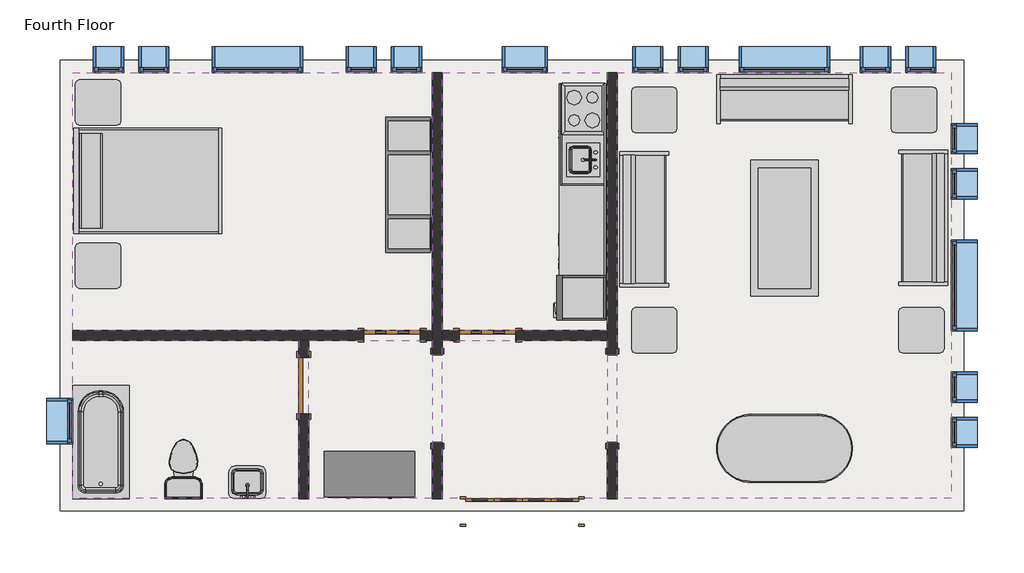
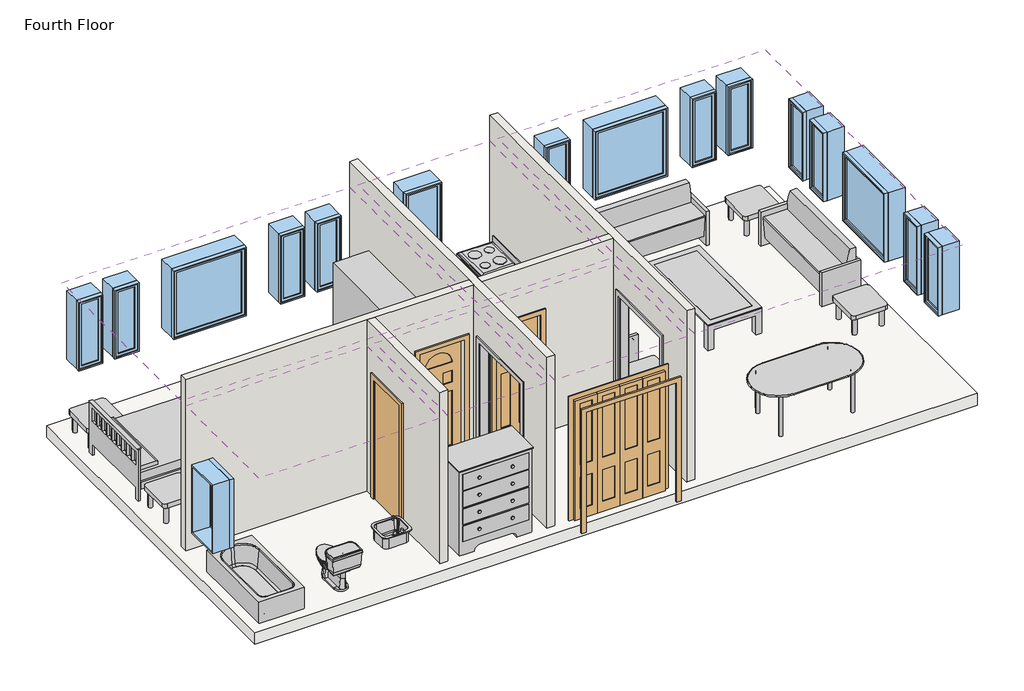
# One storey, incomplete: 17 windows, 15 furniture elements, 6 coverings, 6 proxies, 4 doors, 4 flow terminals, 4 walls, 1 slab.
"""IFC4 building model written with IfcOpenShell, lengths in millimetres."""

from ifc_helpers import new_model, si_unit, frame, origin, place, context, project, spatial, polyline, outline, extrude, faceted_brep, transform, mapped, element, save
from components import m_cook_top_4_unit2_0615_x_500mm_249f3515, m_dishwasher_610_x_610_x_875mm_54ecfc4c, m_kitchenette_medium_1372mm_e05c6bec, m_passage_opening_cased_1220_x_2134mm_87a8d9c2, m_refrigerator_600_x_660mm_a466bf94, m_bifold_4_panel_1525_x_2134mm_1ddae71f, m_single_decorative_2_0762_x_2134mm_0d0af7cb, m_single_decorative_2_0762_x_2134mm_2fe67c8e, m_single_flush_0762_x_2134mm_0d89e411, m_sink_kitchen_island_450_x_450mm_f969cf2d, m_sink_vanity_square_500_x_440mm_1e229b74, m_toilet_domestic_3d_m_toilet_domestic_3d_5cb52bd4, m_toilet_domestic_3d_m_toilet_domestic_3d_183bbd19, m_tub_rectangular_3d_m_tub_rectangular_3d_3a981ad5, m_bed_shaker_1422_x_1981mm_double_096e7f55, m_counter_top_w_sink_hole_600mm_depth_1fb56bb9, m_dresser_1220_x_1525_x_0610mm_18e1f140, m_entertainment_center_1830_x_1830_x_0610mm_f77a9b93, m_sofa_1830mm_58d08fc1, m_table_coffee_0915_x_1830_x_0457mm_134cd960, m_table_dining_oval_0915_x_1830mm_a7cfbe21, m_table_end_cb6ea12e, m_fixed_0406_x_1220mm_57fee329, m_fixed_0406_x_1220mm_85c28f40, m_fixed_0610_x_1220mm_2c28ef1d, m_fixed_1220_x_1220mm_e08ff7af

model = new_model("IFC4")

# Units and contexts
model_context = context("Model", 3, world=origin())
ifc_project = project(units=[si_unit("LENGTHUNIT", "METRE", prefix="MILLI")], contexts=[model_context])

# Site, building, storey
site = spatial("IfcSite", under=ifc_project)
building = spatial("IfcBuilding", under=site)
storey = spatial("IfcBuildingStorey", under=building, Name="Fourth Floor", Elevation=9144.0)

# Proxies
placement = place(None, origin())
m_cook_top_4_unit2_0615_x_500mm_shape = m_cook_top_4_unit2_0615_x_500mm_249f3515(model_context)
element("IfcBuildingElementProxy", 1, Name="M_Cook Top-4 Unit2 : 0615 x 500mm", ObjectType="M_Cook Top-4 Unit2 : 0615 x 500mm", at=placement, inside=storey, context=model_context, shape_type="MappedRepresentation", body=[
    mapped(m_cook_top_4_unit2_0615_x_500mm_shape, transform((-8054.9916203, 1914.054661, 9144.0), x_axis=(0.0, -1.0, 0.0), y_axis=(1.0, 0.0, 0.0), z_axis=(0.0, 0.0, 1.0))),
])
m_dishwasher_610_x_610_x_875mm_shape = m_dishwasher_610_x_610_x_875mm_54ecfc4c(model_context)
element("IfcBuildingElementProxy", 2, Name="M_Dishwasher : 610 x 610 x 875mm", ObjectType="M_Dishwasher : 610 x 610 x 875mm", at=placement, inside=storey, context=model_context, shape_type="MappedRepresentation", body=[
    mapped(m_dishwasher_610_x_610_x_875mm_shape, transform((-8321.6411851, 353.5721295, 9144.0), x_axis=(0.0, -1.0, 0.0), y_axis=(1.0, 0.0, 0.0), z_axis=(0.0, 0.0, 1.0))),
])
m_kitchenette_medium_1372mm_shape = m_kitchenette_medium_1372mm_e05c6bec(model_context)
element("IfcBuildingElementProxy", 3, Name="M_Kitchenette - Medium : 1372mm", ObjectType="M_Kitchenette - Medium : 1372mm", at=placement, inside=storey, context=model_context, shape_type="MappedRepresentation", body=[
    mapped(m_kitchenette_medium_1372mm_shape, transform((-7749.9916203, 1589.7923659, 9144.0), x_axis=(0.0, -1.0, 0.0), y_axis=(1.0, 0.0, 0.0), z_axis=(0.0, 0.0, 1.0))),
])
m_passage_opening_cased_1220_x_2134mm_shape = m_passage_opening_cased_1220_x_2134mm_87a8d9c2(model_context)
element("IfcBuildingElementProxy", 4, Name="M_Passage Opening-Cased : 1220 x 2134mm", ObjectType="M_Passage Opening-Cased : 1220 x 2134mm", at=placement, inside=storey, context=model_context, shape_type="MappedRepresentation", body=[
    mapped(m_passage_opening_cased_1220_x_2134mm_shape, transform((-7665.3416203, -1982.6925047, 9144.0), x_axis=(0.0, 1.0, 0.0), y_axis=(-1.0, 0.0, 0.0), z_axis=(0.0, 0.0, 1.0))),
])
element("IfcBuildingElementProxy", 5, Name="M_Passage Opening-Cased : 1220 x 2134mm", ObjectType="M_Passage Opening-Cased : 1220 x 2134mm", at=placement, inside=storey, context=model_context, shape_type="MappedRepresentation", body=[
    mapped(m_passage_opening_cased_1220_x_2134mm_shape, transform((-10019.0916203, -1999.0698181, 9144.0), x_axis=(0.0, -1.0, 0.0), y_axis=(1.0, 0.0, 0.0), z_axis=(0.0, 0.0, 1.0))),
])
m_refrigerator_600_x_660mm_shape = m_refrigerator_600_x_660mm_a466bf94(model_context)
element("IfcBuildingElementProxy", 6, Name="M_Refrigerator : 600 x 660mm", ObjectType="M_Refrigerator : 600 x 660mm", at=placement, inside=storey, context=model_context, shape_type="MappedRepresentation", body=[
    mapped(m_refrigerator_600_x_660mm_shape, transform((-8046.2067105, -687.7464817, 9144.0), x_axis=(0.0, -1.0, 0.0), y_axis=(1.0, 0.0, 0.0), z_axis=(0.0, 0.0, 1.0))),
])

# Coverings
element("IfcCovering", 7, ObjectType="Plain", at=placement, inside=storey, context=model_context, shape_type="SweptSolid", body=[
    extrude(outline(polyline([(-14935.3416203, 2406.1188386), (-10086.8416203, 2406.1188386), (-10086.8416203, -1070.3811614), (-14935.3416203, -1070.3811614), (-14935.3416203, 2406.1188386)])), frame((0.0, 0.0, 11734.0), z_axis=(0.0, 0.0, 1.0), x_axis=(1.0, 0.0, 0.0)), (0.0, 0.0, 1.0), 57.0),
])
element("IfcCovering", 8, ObjectType="Plain", at=placement, inside=storey, context=model_context, shape_type="SweptSolid", body=[
    extrude(outline(polyline([(-9951.3416203, -1070.3811614), (-9951.3416203, 2406.1188386), (-7733.0916203, 2406.1188386), (-7733.0916203, -1070.3811614), (-9951.3416203, -1070.3811614)])), frame((0.0, 0.0, 11734.0), z_axis=(0.0, 0.0, 1.0), x_axis=(1.0, 0.0, 0.0)), (0.0, 0.0, 1.0), 57.0),
])
element("IfcCovering", 9, ObjectType="Plain", at=placement, inside=storey, context=model_context, shape_type="SweptSolid", body=[
    extrude(outline(polyline([(-7597.5916203, -3339.8811614), (-7597.5916203, 2406.1188386), (-3093.3416203, 2406.1188386), (-3093.3416203, -3339.8811614), (-7597.5916203, -3339.8811614)])), frame((0.0, 0.0, 11734.0), z_axis=(0.0, 0.0, 1.0), x_axis=(1.0, 0.0, 0.0)), (0.0, 0.0, 1.0), 57.0),
])
element("IfcCovering", 10, ObjectType="Plain", at=placement, inside=storey, context=model_context, shape_type="SweptSolid", body=[
    extrude(outline(polyline([(-7733.0916203, -3339.8811614), (-9951.3416203, -3339.8811614), (-9951.3416203, -1205.8811614), (-7733.0916203, -1205.8811614), (-7733.0916203, -3339.8811614)])), frame((0.0, 0.0, 11734.0), z_axis=(0.0, 0.0, 1.0), x_axis=(1.0, 0.0, 0.0)), (0.0, 0.0, 1.0), 57.0),
])
element("IfcCovering", 11, ObjectType="Plain", at=placement, inside=storey, context=model_context, shape_type="SweptSolid", body=[
    extrude(outline(polyline([(-11887.3416203, -1205.8811614), (-11887.3416203, -3339.8811614), (-14935.3416203, -3339.8811614), (-14935.3416203, -1205.8811614), (-11887.3416203, -1205.8811614)])), frame((0.0, 0.0, 11734.0), z_axis=(0.0, 0.0, 1.0), x_axis=(1.0, 0.0, 0.0)), (0.0, 0.0, 1.0), 57.0),
])
element("IfcCovering", 12, ObjectType="Plain", at=placement, inside=storey, context=model_context, shape_type="SweptSolid", body=[
    extrude(outline(polyline([(-10086.8416203, -3339.8811614), (-11751.8416203, -3339.8811614), (-11751.8416203, -1205.8811614), (-10086.8416203, -1205.8811614), (-10086.8416203, -3339.8811614)])), frame((0.0, 0.0, 11734.0), z_axis=(0.0, 0.0, 1.0), x_axis=(1.0, 0.0, 0.0)), (0.0, 0.0, 1.0), 57.0),
])

# Doors
m_bifold_4_panel_1525_x_2134mm_shape = m_bifold_4_panel_1525_x_2134mm_1ddae71f(model_context)
element("IfcDoor", 13, ObjectType="M_Bifold-4 Panel : 1525 x 2134mm", at=placement, inside=storey, context=model_context, shape_type="MappedRepresentation", body=[
    mapped(m_bifold_4_panel_1525_x_2134mm_shape, transform((-8876.0916203, -3514.8811614, 9144.0), x_axis=(1.0, 0.0, 0.0), y_axis=(0.0, 1.0, 0.0), z_axis=(0.0, 0.0, 1.0))),
])
m_single_decorative_2_0762_x_2134mm_shape = m_single_decorative_2_0762_x_2134mm_0d0af7cb(model_context)
element("IfcDoor", 14, ObjectType="M_Single-Decorative 2 : 0762 x 2134mm", at=placement, inside=storey, context=model_context, shape_type="MappedRepresentation", body=[
    mapped(m_single_decorative_2_0762_x_2134mm_shape, transform((-9342.3416203, -1138.1311614, 9144.0), x_axis=(-1.0, 0.0, 0.0), y_axis=(0.0, -1.0, 0.0), z_axis=(0.0, 0.0, 1.0))),
])
m_single_decorative_2_0762_x_2134mm_2_shape = m_single_decorative_2_0762_x_2134mm_2fe67c8e(model_context)
element("IfcDoor", 15, ObjectType="M_Single-Decorative 2 : 0762 x 2134mm", at=placement, inside=storey, context=model_context, shape_type="MappedRepresentation", body=[
    mapped(m_single_decorative_2_0762_x_2134mm_2_shape, transform((-10629.0916203, -1138.1311614, 9144.0), x_axis=(1.0, 0.0, 0.0), y_axis=(0.0, 1.0, 0.0), z_axis=(0.0, 0.0, 1.0))),
])
m_single_flush_0762_x_2134mm_shape = m_single_flush_0762_x_2134mm_0d89e411(model_context)
element("IfcDoor", 16, ObjectType="M_Single-Flush : 0762 x 2134mm", at=placement, inside=storey, context=model_context, shape_type="MappedRepresentation", body=[
    mapped(m_single_flush_0762_x_2134mm_shape, transform((-11819.5916203, -1815.8811614, 9144.0), x_axis=(0.0, 1.0, 0.0), y_axis=(-1.0, 0.0, 0.0), z_axis=(0.0, 0.0, 1.0))),
])

# Flow terminals
m_sink_kitchen_island_450_x_450mm_shape = m_sink_kitchen_island_450_x_450mm_f969cf2d(model_context)
element("IfcFlowTerminal", 17, ObjectType="M_Sink Kitchen-Island : 450 x 450mm", at=placement, inside=storey, context=model_context, shape_type="MappedRepresentation", body=[
    mapped(m_sink_kitchen_island_450_x_450mm_shape, transform((-8057.3370214, 1243.7439015, 9144.0), x_axis=(0.0, -1.0, 0.0), y_axis=(1.0, 0.0, 0.0), z_axis=(0.0, 0.0, 1.0))),
])
m_sink_vanity_square_500_x_440mm_shape = m_sink_vanity_square_500_x_440mm_1e229b74(model_context)
element("IfcFlowTerminal", 18, ObjectType="M_Sink Vanity-Square : 500 x 440mm", at=placement, inside=storey, context=model_context, shape_type="MappedRepresentation", body=[
    mapped(m_sink_vanity_square_500_x_440mm_shape, transform((-12563.5523798, -3158.1107603, 9144.0), x_axis=(-1.0, 0.0, 0.0), y_axis=(0.0, -1.0, 0.0), z_axis=(0.0, 0.0, 1.0))),
])
m_toilet_domestic_3d_m_toilet_domestic_3d_shape = m_toilet_domestic_3d_m_toilet_domestic_3d_5cb52bd4(model_context)
m_toilet_domestic_3d_m_toilet_domestic_3d_2_shape = m_toilet_domestic_3d_m_toilet_domestic_3d_183bbd19(model_context)
element("IfcFlowTerminal", 19, ObjectType="M_Toilet-Domestic-3D : M_Toilet-Domestic-3D", at=placement, inside=storey, context=model_context, shape_type="MappedRepresentation", body=[
    mapped(m_toilet_domestic_3d_m_toilet_domestic_3d_shape, transform((-13440.7376477, -2845.185134, 9144.0), x_axis=(-1.0000000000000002, 0.0, 0.0), y_axis=(0.0, -1.0000000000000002, 0.0), z_axis=(0.0, 0.0, 1.0))),
    mapped(m_toilet_domestic_3d_m_toilet_domestic_3d_2_shape, transform((-13440.7376477, -2845.185134, 9144.0), x_axis=(-1.0000000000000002, 0.0, 0.0), y_axis=(0.0, -1.0000000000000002, 0.0), z_axis=(0.0, 0.0, 1.0))),
])
m_tub_rectangular_3d_m_tub_rectangular_3d_shape = m_tub_rectangular_3d_m_tub_rectangular_3d_3a981ad5(model_context)
element("IfcFlowTerminal", 20, ObjectType="M_Tub-Rectangular-3D : M_Tub-Rectangular-3D", at=placement, inside=storey, context=model_context, shape_type="MappedRepresentation", body=[
    mapped(m_tub_rectangular_3d_m_tub_rectangular_3d_shape, transform((-15110.3416203, -2229.2781927, 9144.0), x_axis=(0.0, 1.0, 0.0), y_axis=(-1.0, 0.0, 0.0), z_axis=(0.0, 0.0, 1.0))),
])

# Furniture
m_bed_shaker_1422_x_1981mm_double_shape = m_bed_shaker_1422_x_1981mm_double_096e7f55(model_context)
element("IfcFurniture", 21, ObjectType="M_Bed-Shaker : 1422 x 1981mm - Double", at=placement, inside=storey, context=model_context, shape_type="MappedRepresentation", body=[
    mapped(m_bed_shaker_1422_x_1981mm_double_shape, transform((-14905.3416203, 963.9688386, 9144.0), x_axis=(0.0, 1.0000000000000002, 0.0), y_axis=(-1.0000000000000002, 0.0, 0.0), z_axis=(0.0, 0.0, 1.0))),
])
m_counter_top_w_sink_hole_600mm_depth_shape = m_counter_top_w_sink_hole_600mm_depth_1fb56bb9(model_context)
element("IfcFurniture", 22, ObjectType="M_Counter Top w Sink Hole : 600mm Depth", at=placement, inside=storey, context=model_context, shape_type="MappedRepresentation", body=[
    mapped(m_counter_top_w_sink_hole_600mm_depth_shape, transform((-7749.9916203, 1056.5923659, 9144.0), x_axis=(0.0, -1.0, 0.0), y_axis=(1.0, 0.0, 0.0), z_axis=(0.0, 0.0, 1.0))),
])
m_dresser_1220_x_1525_x_0610mm_shape = m_dresser_1220_x_1525_x_0610mm_18e1f140(model_context)
element("IfcFurniture", 23, ObjectType="M_Dresser : 1220 x 1525 x 0610mm", at=placement, inside=storey, context=model_context, shape_type="MappedRepresentation", body=[
    mapped(m_dresser_1220_x_1525_x_0610mm_shape, transform((-10667.6483605, -2647.7182073, 9144.0), x_axis=(1.0, 0.0, 0.0), y_axis=(0.0, 1.0, 0.0), z_axis=(0.0, 0.0, 1.0))),
])
m_entertainment_center_1830_x_1830_x_0610mm_shape = m_entertainment_center_1830_x_1830_x_0610mm_f77a9b93(model_context)
element("IfcFurniture", 24, ObjectType="M_Entertainment center : 1830 x 1830 x 0610mm", at=placement, inside=storey, context=model_context, shape_type="MappedRepresentation", body=[
    mapped(m_entertainment_center_1830_x_1830_x_0610mm_shape, transform((-10818.2416203, 891.1188386, 9144.0), x_axis=(0.0, 1.0, 0.0), y_axis=(-1.0, 0.0, 0.0), z_axis=(0.0, 0.0, 1.0))),
])
m_sofa_1830mm_shape = m_sofa_1830mm_58d08fc1(model_context)
element("IfcFurniture", 25, ObjectType="M_Sofa : 1830mm", at=placement, inside=storey, context=model_context, shape_type="MappedRepresentation", body=[
    mapped(m_sofa_1830mm_shape, transform((-5413.7121121, 1899.9647403, 9144.0), x_axis=(1.0, 0.0, 0.0), y_axis=(0.0, 1.0, 0.0), z_axis=(0.0, 0.0, 1.0))),
])
element("IfcFurniture", 26, ObjectType="M_Sofa : 1830mm", at=placement, inside=storey, context=model_context, shape_type="MappedRepresentation", body=[
    mapped(m_sofa_1830mm_shape, transform((-3617.1736471, 517.2688343, 9144.0), x_axis=(0.0, -1.0, 0.0), y_axis=(1.0, 0.0, 0.0), z_axis=(0.0, 0.0, 1.0))),
])
element("IfcFurniture", 27, ObjectType="M_Sofa : 1830mm", at=placement, inside=storey, context=model_context, shape_type="MappedRepresentation", body=[
    mapped(m_sofa_1830mm_shape, transform((-7088.437522, 355.7483468, 9144.0), x_axis=(0.0, 1.0, 0.0), y_axis=(-1.0, 0.0, 0.0), z_axis=(0.0, 0.0, 1.0))),
])
m_table_coffee_0915_x_1830_x_0457mm_shape = m_table_coffee_0915_x_1830_x_0457mm_134cd960(model_context)
element("IfcFurniture", 28, ObjectType="M_Table-Coffee : 0915 x 1830 x 0457mm", at=placement, inside=storey, context=model_context, shape_type="MappedRepresentation", body=[
    mapped(m_table_coffee_0915_x_1830_x_0457mm_shape, transform((-5248.1305425, 287.8530719, 9144.0), x_axis=(0.0, 1.0, 0.0), y_axis=(-1.0, 0.0, 0.0), z_axis=(0.0, 0.0, 1.0))),
])
m_table_dining_oval_0915_x_1830mm_shape = m_table_dining_oval_0915_x_1830mm_a7cfbe21(model_context)
element("IfcFurniture", 29, ObjectType="M_Table-Dining Oval : 0915 x 1830mm", at=placement, inside=storey, context=model_context, shape_type="MappedRepresentation", body=[
    mapped(m_table_dining_oval_0915_x_1830mm_shape, transform((-4941.5219482, -2305.2828007, 9144.0), x_axis=(1.0, 0.0, 0.0), y_axis=(0.0, 1.0, 0.0), z_axis=(0.0, 0.0, 1.0))),
])
m_table_end_shape = m_table_end_cb6ea12e(model_context)
element("IfcFurniture", 30, ObjectType="M_Table-End : 0610 x 0160mm altered height", at=placement, inside=storey, context=model_context, shape_type="MappedRepresentation", body=[
    mapped(m_table_end_shape, transform((-7407.0752506, 1748.7188386, 9144.0), x_axis=(1.0, 0.0, 0.0), y_axis=(0.0, 1.0, 0.0), z_axis=(0.0, 0.0, 1.0))),
])
element("IfcFurniture", 31, ObjectType="M_Table-End : 0610 x 0160mm altered height", at=placement, inside=storey, context=model_context, shape_type="MappedRepresentation", body=[
    mapped(m_table_end_shape, transform((-3907.0752506, 1748.7188386, 9144.0), x_axis=(1.0, 0.0, 0.0), y_axis=(0.0, 1.0, 0.0), z_axis=(0.0, 0.0, 1.0))),
])
element("IfcFurniture", 32, ObjectType="M_Table-End : 0610 x 0160mm altered height", at=placement, inside=storey, context=model_context, shape_type="MappedRepresentation", body=[
    mapped(m_table_end_shape, transform((-3807.0752506, -1222.7811614, 9144.0), x_axis=(1.0, 0.0, 0.0), y_axis=(0.0, 1.0, 0.0), z_axis=(0.0, 0.0, 1.0))),
])
element("IfcFurniture", 33, ObjectType="M_Table-End : 0610 x 0160mm altered height", at=placement, inside=storey, context=model_context, shape_type="MappedRepresentation", body=[
    mapped(m_table_end_shape, transform((-7407.0752506, -1222.7811614, 9144.0), x_axis=(1.0, 0.0, 0.0), y_axis=(0.0, 1.0, 0.0), z_axis=(0.0, 0.0, 1.0))),
])
element("IfcFurniture", 34, ObjectType="M_Table-End : 0610 x 0160mm altered height", at=placement, inside=storey, context=model_context, shape_type="MappedRepresentation", body=[
    mapped(m_table_end_shape, transform((-14899.0752506, -351.2811614, 9144.0), x_axis=(1.0, 0.0, 0.0), y_axis=(0.0, 1.0, 0.0), z_axis=(0.0, 0.0, 1.0))),
])
element("IfcFurniture", 35, ObjectType="M_Table-End : 0610 x 0160mm altered height", at=placement, inside=storey, context=model_context, shape_type="MappedRepresentation", body=[
    mapped(m_table_end_shape, transform((-14899.0752506, 1848.7188386, 9144.0), x_axis=(1.0, 0.0, 0.0), y_axis=(0.0, 1.0, 0.0), z_axis=(0.0, 0.0, 1.0))),
])

# Slab
element("IfcSlab", 36, ObjectType="160mm Concrete With 50mm Metal Deck", at=placement, inside=storey, context=model_context, shape_type="SweptSolid", body=[
    extrude(outline(polyline([(-2928.3416203, 2571.1188386), (-2928.3416203, -3504.8811614), (-15100.3416203, -3504.8811614), (-15100.3416203, 2571.1188386), (-2928.3416203, 2571.1188386)])), frame((0.0, 0.0, 8934.0), z_axis=(0.0, 0.0, 1.0), x_axis=(1.0, 0.0, 0.0)), (0.0, 0.0, 1.0), 210.0),
])

# Walls
element("IfcWall", 37, ObjectType="Interior - 135mm Partition (2-hr)", at=placement, inside=storey, context=model_context, shape_type="Brep", body=[
    faceted_brep([(-7733.0916203, 2406.1188386, 9144.0), (-7733.0916203, -1070.3811614, 9144.0), (-7733.0916203, -1205.8811614, 9144.0), (-7733.0916203, -1380.8811614, 9144.0), (-7733.0916203, -1380.8811614, 11278.0), (-7733.0916203, -2600.8811614, 11278.0), (-7733.0916203, -2600.8811614, 9144.0), (-7733.0916203, -3339.8811614, 9144.0), (-7733.0916203, -3339.8811614, 12192.0), (-7733.0916203, -1205.8811614, 12192.0), (-7733.0916203, -1070.3811614, 12192.0), (-7733.0916203, 2406.1188386, 12192.0), (-7597.5916203, -1380.8811614, 11278.0), (-7597.5916203, -1380.8811614, 9144.0), (-7597.5916203, 2406.1188386, 9144.0), (-7597.5916203, 2406.1188386, 12192.0), (-7597.5916203, -3339.8811614, 12192.0), (-7597.5916203, -3339.8811614, 9144.0), (-7597.5916203, -2600.8811614, 9144.0), (-7597.5916203, -2600.8811614, 11278.0)], [[[0, 1, 2, 3, 4, 5, 6, 7, 8, 9, 10, 11]], [[12, 13, 14, 15, 16, 17, 18, 19]], [[18, 17, 7, 6]], [[14, 13, 3, 2, 1, 0]], [[11, 10, 9, 8, 16, 15]], [[6, 5, 19, 18]], [[4, 3, 13, 12]], [[5, 4, 12, 19]], [[0, 11, 15, 14]], [[8, 7, 17, 16]]]),
])
element("IfcWall", 38, ObjectType="Interior - 135mm Partition (2-hr)", at=placement, inside=storey, context=model_context, shape_type="Brep", body=[
    faceted_brep([(-10086.8416203, -2600.8811614, 11278.0), (-10086.8416203, -2600.8811614, 9144.0), (-10086.8416203, -3339.8811614, 9144.0), (-10086.8416203, -3339.8811614, 12192.0), (-10086.8416203, -1205.8811614, 12192.0), (-10086.8416203, -1070.3811614, 12192.0), (-10086.8416203, 2406.1188386, 12192.0), (-10086.8416203, 2406.1188386, 9144.0), (-10086.8416203, -1070.3811614, 9144.0), (-10086.8416203, -1205.8811614, 9144.0), (-10086.8416203, -1380.8811614, 9144.0), (-10086.8416203, -1380.8811614, 11278.0), (-9951.3416203, -3339.8811614, 9144.0), (-9951.3416203, -2600.8811614, 9144.0), (-9951.3416203, -2600.8811614, 11278.0), (-9951.3416203, -1380.8811614, 11278.0), (-9951.3416203, -1380.8811614, 9144.0), (-9951.3416203, -1205.8811614, 9144.0), (-9951.3416203, -1070.3811614, 9144.0), (-9951.3416203, 2406.1188386, 9144.0), (-9951.3416203, 2406.1188386, 12192.0), (-9951.3416203, -1070.3811614, 12192.0), (-9951.3416203, -1205.8811614, 12192.0), (-9951.3416203, -3339.8811614, 12192.0)], [[[0, 1, 2, 3, 4, 5, 6, 7, 8, 9, 10, 11]], [[12, 13, 14, 15, 16, 17, 18, 19, 20, 21, 22, 23]], [[2, 1, 13, 12]], [[10, 9, 8, 7, 19, 18, 17, 16]], [[6, 5, 4, 3, 23, 22, 21, 20]], [[16, 15, 11, 10]], [[14, 13, 1, 0]], [[15, 14, 0, 11]], [[7, 6, 20, 19]], [[3, 2, 12, 23]]]),
])
element("IfcWall", 39, ObjectType="Interior - 135mm Partition (2-hr)", at=placement, inside=storey, context=model_context, shape_type="Brep", body=[
    faceted_brep([(-7733.0916203, -1205.8811614, 9144.0), (-7733.0916203, -1205.8811614, 12192.0), (-9951.3416203, -1205.8811614, 12192.0), (-9951.3416203, -1205.8811614, 9144.0), (-9723.3416203, -1205.8811614, 9144.0), (-9723.3416203, -1205.8811614, 11278.0), (-8961.3416203, -1205.8811614, 11278.0), (-8961.3416203, -1205.8811614, 9144.0), (-7733.0916203, -1070.3811614, 12192.0), (-7733.0916203, -1070.3811614, 9144.0), (-8961.3416203, -1070.3811614, 9144.0), (-8961.3416203, -1070.3811614, 11278.0), (-9723.3416203, -1070.3811614, 11278.0), (-9723.3416203, -1070.3811614, 9144.0), (-9951.3416203, -1070.3811614, 9144.0), (-9951.3416203, -1070.3811614, 12192.0)], [[[0, 1, 2, 3, 4, 5, 6, 7]], [[8, 9, 10, 11, 12, 13, 14, 15]], [[9, 0, 7, 10]], [[13, 4, 3, 14]], [[1, 8, 15, 2]], [[1, 0, 9, 8]], [[3, 2, 15, 14]], [[5, 4, 13, 12]], [[6, 5, 12, 11]], [[7, 6, 11, 10]]]),
    faceted_brep([(-10248.0916203, -1205.8811614, 11278.0), (-10248.0916203, -1205.8811614, 9144.0), (-10086.8416203, -1205.8811614, 9144.0), (-10086.8416203, -1205.8811614, 12192.0), (-11751.8416203, -1205.8811614, 12192.0), (-11887.3416203, -1205.8811614, 12192.0), (-14935.3416203, -1205.8811614, 12192.0), (-14935.3416203, -1205.8811614, 9144.0), (-11887.3416203, -1205.8811614, 9144.0), (-11751.8416203, -1205.8811614, 9144.0), (-11010.0916203, -1205.8811614, 9144.0), (-11010.0916203, -1205.8811614, 11278.0), (-10248.0916203, -1070.3811614, 9144.0), (-10248.0916203, -1070.3811614, 11278.0), (-11010.0916203, -1070.3811614, 11278.0), (-11010.0916203, -1070.3811614, 9144.0), (-14935.3416203, -1070.3811614, 9144.0), (-14935.3416203, -1070.3811614, 12192.0), (-10086.8416203, -1070.3811614, 12192.0), (-10086.8416203, -1070.3811614, 9144.0)], [[[0, 1, 2, 3, 4, 5, 6, 7, 8, 9, 10, 11]], [[12, 13, 14, 15, 16, 17, 18, 19]], [[1, 12, 19, 2]], [[15, 10, 9, 8, 7, 16]], [[17, 6, 5, 4, 3, 18]], [[3, 2, 19, 18]], [[13, 12, 1, 0]], [[14, 13, 0, 11]], [[15, 14, 11, 10]], [[7, 6, 17, 16]]]),
])
element("IfcWall", 40, ObjectType="Interior - 135mm Partition (2-hr)", at=placement, inside=storey, context=model_context, shape_type="SweptSolid", body=[
    extrude(outline(polyline([(-1205.8811614, 9144.0), (-1434.8811614, 9144.0), (-1434.8811614, 11278.0), (-2196.8811614, 11278.0), (-2196.8811614, 9144.0), (-3339.8811614, 9144.0), (-3339.8811614, 12192.0), (-1205.8811614, 12192.0), (-1205.8811614, 9144.0)])), frame((-11887.3416203, 0.0, 0.0), z_axis=(1.0, 0.0, 0.0), x_axis=(0.0, 1.0, 0.0)), (0.0, 0.0, 1.0), 135.5),
])

# Windows
m_fixed_0406_x_1220mm_shape = m_fixed_0406_x_1220mm_57fee329(model_context)
element("IfcWindow", 41, ObjectType="M_Fixed : 0406 x 1220mm", at=placement, inside=storey, context=model_context, shape_type="MappedRepresentation", body=[
    mapped(m_fixed_0406_x_1220mm_shape, transform((-14450.3416203, 2594.1188386, 9144.0), x_axis=(-1.0, 0.0, 0.0), y_axis=(0.0, -1.0, 0.0), z_axis=(0.0, 0.0, 1.0))),
])
element("IfcWindow", 42, ObjectType="M_Fixed : 0406 x 1220mm", at=placement, inside=storey, context=model_context, shape_type="MappedRepresentation", body=[
    mapped(m_fixed_0406_x_1220mm_shape, transform((-13840.3416203, 2594.1188386, 9144.0), x_axis=(-1.0, 0.0, 0.0), y_axis=(0.0, -1.0, 0.0), z_axis=(0.0, 0.0, 1.0))),
])
element("IfcWindow", 43, ObjectType="M_Fixed : 0406 x 1220mm", at=placement, inside=storey, context=model_context, shape_type="MappedRepresentation", body=[
    mapped(m_fixed_0406_x_1220mm_shape, transform((-7183.3416203, 2594.1188386, 9144.0), x_axis=(-1.0, 0.0, 0.0), y_axis=(0.0, -1.0, 0.0), z_axis=(0.0, 0.0, 1.0))),
])
element("IfcWindow", 44, ObjectType="M_Fixed : 0406 x 1220mm", at=placement, inside=storey, context=model_context, shape_type="MappedRepresentation", body=[
    mapped(m_fixed_0406_x_1220mm_shape, transform((-6573.3416203, 2594.1188386, 9144.0), x_axis=(-1.0, 0.0, 0.0), y_axis=(0.0, -1.0, 0.0), z_axis=(0.0, 0.0, 1.0))),
])
element("IfcWindow", 45, ObjectType="M_Fixed : 0406 x 1220mm", at=placement, inside=storey, context=model_context, shape_type="MappedRepresentation", body=[
    mapped(m_fixed_0406_x_1220mm_shape, transform((-2905.3416203, 1514.1188386, 9144.0), x_axis=(0.0, 1.0, 0.0), y_axis=(-1.0, 0.0, 0.0), z_axis=(0.0, 0.0, 1.0))),
])
element("IfcWindow", 46, ObjectType="M_Fixed : 0406 x 1220mm", at=placement, inside=storey, context=model_context, shape_type="MappedRepresentation", body=[
    mapped(m_fixed_0406_x_1220mm_shape, transform((-2905.3416203, 904.1188386, 9144.0), x_axis=(0.0, 1.0, 0.0), y_axis=(-1.0, 0.0, 0.0), z_axis=(0.0, 0.0, 1.0))),
])
m_fixed_0406_x_1220mm_2_shape = m_fixed_0406_x_1220mm_85c28f40(model_context)
element("IfcWindow", 47, ObjectType="M_Fixed : 0406 x 1220mm", at=placement, inside=storey, context=model_context, shape_type="MappedRepresentation", body=[
    mapped(m_fixed_0406_x_1220mm_2_shape, transform((-10436.3416203, 2594.1188386, 9144.0), x_axis=(1.0, 0.0, 0.0), y_axis=(0.0, 1.0, 0.0), z_axis=(0.0, 0.0, 1.0))),
])
element("IfcWindow", 48, ObjectType="M_Fixed : 0406 x 1220mm", at=placement, inside=storey, context=model_context, shape_type="MappedRepresentation", body=[
    mapped(m_fixed_0406_x_1220mm_2_shape, transform((-11046.3416203, 2594.1188386, 9144.0), x_axis=(1.0, 0.0, 0.0), y_axis=(0.0, 1.0, 0.0), z_axis=(0.0, 0.0, 1.0))),
])
element("IfcWindow", 49, ObjectType="M_Fixed : 0406 x 1220mm", at=placement, inside=storey, context=model_context, shape_type="MappedRepresentation", body=[
    mapped(m_fixed_0406_x_1220mm_2_shape, transform((-3507.5916203, 2594.1188386, 9144.0), x_axis=(1.0, 0.0, 0.0), y_axis=(0.0, 1.0, 0.0), z_axis=(0.0, 0.0, 1.0))),
])
element("IfcWindow", 50, ObjectType="M_Fixed : 0406 x 1220mm", at=placement, inside=storey, context=model_context, shape_type="MappedRepresentation", body=[
    mapped(m_fixed_0406_x_1220mm_2_shape, transform((-4117.5916203, 2594.1188386, 9144.0), x_axis=(1.0, 0.0, 0.0), y_axis=(0.0, 1.0, 0.0), z_axis=(0.0, 0.0, 1.0))),
])
element("IfcWindow", 51, ObjectType="M_Fixed : 0406 x 1220mm", at=placement, inside=storey, context=model_context, shape_type="MappedRepresentation", body=[
    mapped(m_fixed_0406_x_1220mm_2_shape, transform((-2905.3416203, -2447.8811614, 9144.0), x_axis=(0.0, -1.0, 0.0), y_axis=(1.0, 0.0, 0.0), z_axis=(0.0, 0.0, 1.0))),
])
element("IfcWindow", 52, ObjectType="M_Fixed : 0406 x 1220mm", at=placement, inside=storey, context=model_context, shape_type="MappedRepresentation", body=[
    mapped(m_fixed_0406_x_1220mm_2_shape, transform((-2905.3416203, -1837.8811614, 9144.0), x_axis=(0.0, -1.0, 0.0), y_axis=(1.0, 0.0, 0.0), z_axis=(0.0, 0.0, 1.0))),
])
m_fixed_0610_x_1220mm_shape = m_fixed_0610_x_1220mm_2c28ef1d(model_context)
element("IfcWindow", 53, ObjectType="M_Fixed : 0610 x 1220mm", at=placement, inside=storey, context=model_context, shape_type="MappedRepresentation", body=[
    mapped(m_fixed_0610_x_1220mm_shape, transform((-8842.1916203, 2594.1188386, 9144.0), x_axis=(-1.0, 0.0, 0.0), y_axis=(0.0, -1.0, 0.0), z_axis=(0.0, 0.0, 1.0))),
])
element("IfcWindow", 54, ObjectType="M_Fixed : 0610 x 1220mm", at=placement, inside=storey, context=model_context, shape_type="MappedRepresentation", body=[
    mapped(m_fixed_0610_x_1220mm_shape, transform((-15123.3416203, -2294.8811614, 9144.0), x_axis=(0.0, -1.0, 0.0), y_axis=(1.0, 0.0, 0.0), z_axis=(0.0, 0.0, 1.0))),
])
m_fixed_1220_x_1220mm_shape = m_fixed_1220_x_1220mm_e08ff7af(model_context)
element("IfcWindow", 55, ObjectType="M_Fixed : 1220 x 1220mm", at=placement, inside=storey, context=model_context, shape_type="MappedRepresentation", body=[
    mapped(m_fixed_1220_x_1220mm_shape, transform((-12443.3416203, 2594.1188386, 9144.0), x_axis=(-1.0, 0.0, 0.0), y_axis=(0.0, -1.0, 0.0), z_axis=(0.0, 0.0, 1.0))),
])
element("IfcWindow", 56, ObjectType="M_Fixed : 1220 x 1220mm", at=placement, inside=storey, context=model_context, shape_type="MappedRepresentation", body=[
    mapped(m_fixed_1220_x_1220mm_shape, transform((-5345.4666203, 2594.1188386, 9144.0), x_axis=(-1.0, 0.0, 0.0), y_axis=(0.0, -1.0, 0.0), z_axis=(0.0, 0.0, 1.0))),
])
element("IfcWindow", 57, ObjectType="M_Fixed : 1220 x 1220mm", at=placement, inside=storey, context=model_context, shape_type="MappedRepresentation", body=[
    mapped(m_fixed_1220_x_1220mm_shape, transform((-2905.3416203, -466.8811614, 9144.0), x_axis=(0.0, 1.0, 0.0), y_axis=(-1.0, 0.0, 0.0), z_axis=(0.0, 0.0, 1.0))),
])

save(model, "model.ifc")
